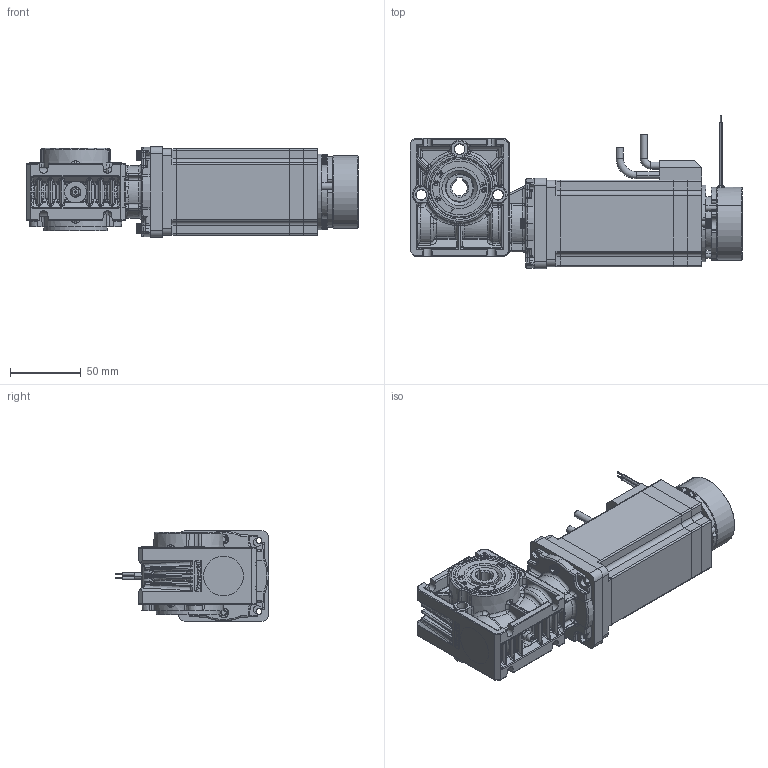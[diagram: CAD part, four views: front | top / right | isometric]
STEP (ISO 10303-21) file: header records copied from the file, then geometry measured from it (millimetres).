
FILE_DESCRIPTION (( 'STEP AP214' ), '1' );
FILE_NAME ('PBL60-70-GB28 - Brake.STEP', '2024-09-14T14:17:13', ( '' ), ( '' ), 'SwSTEP 2.0', 'SolidWorks 2023', '' );
FILE_SCHEMA (( 'AUTOMOTIVE_DESIGN' ));
Length unit declared in the file: millimetre
Products named in the file (1): PBL60-70-GB28 - Brake
Bounding box: 234.24 x 108.5 x 64 mm (x, y, z)
Volume: 653890.1 mm3; surface area: 164054.9 mm2
Topology: 26 solids, 26 shells, 4613 faces, 12022 edges, 7562 vertices
Faces by surface type: cylinder 1888, plane 1344, bspline 958, torus 155, cone 148, sphere 120
Entity records: 247122 total; most frequent: CARTESIAN_POINT 90673, ORIENTED_EDGE 23778, DIRECTION 19669, EDGE_CURVE 11889, VERTEX_POINT 7553, AXIS2_PLACEMENT_3D 7210, VECTOR 5249, LINE 5249
